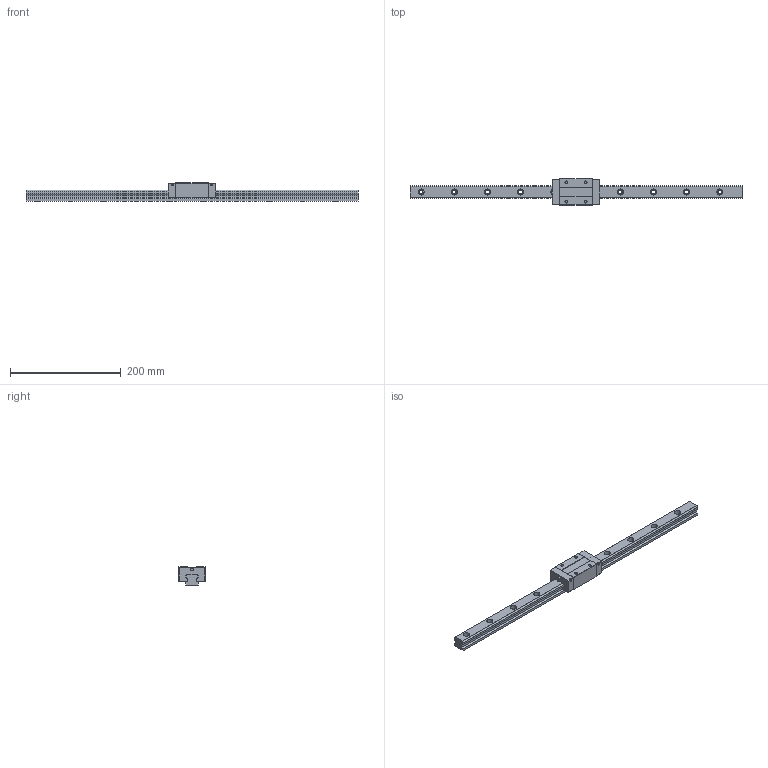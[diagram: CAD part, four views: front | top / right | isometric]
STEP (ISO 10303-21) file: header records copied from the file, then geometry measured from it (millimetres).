
FILE_DESCRIPTION (( 'STEP AP203' ), '1' );
FILE_NAME ('TRS25VN-SU.STEP', '2024-06-26T03:44:23', ( '' ), ( '' ), 'SwSTEP 2.0', 'SolidWorks 2022', '' );
FILE_SCHEMA (( 'CONFIG_CONTROL_DESIGN' ));
Length unit declared in the file: millimetre
Products named in the file (1): TRS25VN-SU
Bounding box: 600 x 48 x 33 mm (x, y, z)
Volume: 318556.5 mm3; surface area: 77193.3 mm2
Topology: 2 solids, 2 shells, 192 faces, 496 edges, 328 vertices
Faces by surface type: cylinder 96, plane 96
Entity records: 6023 total; most frequent: DIRECTION 1074, CARTESIAN_POINT 1017, ORIENTED_EDGE 992, EDGE_CURVE 496, AXIS2_PLACEMENT_3D 385, VERTEX_POINT 328, LINE 304, VECTOR 304
